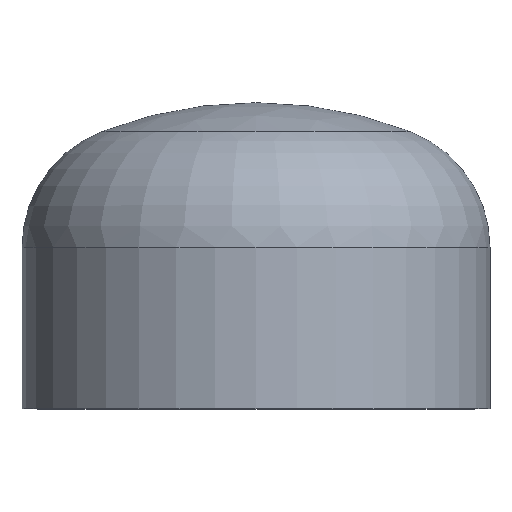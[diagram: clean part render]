
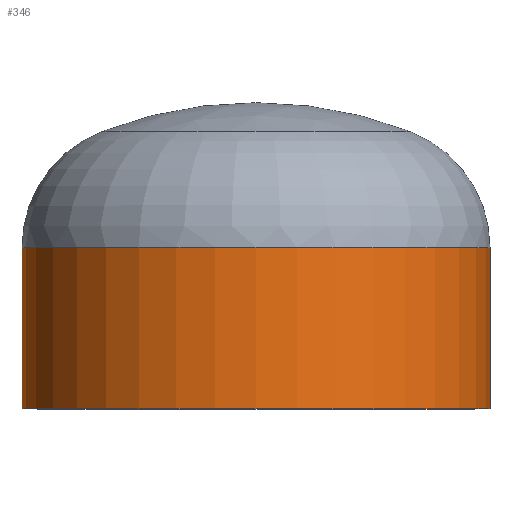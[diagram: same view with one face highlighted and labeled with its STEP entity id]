
A CAD part, top view. The second image highlights one B-rep face of the part: STEP entity #346.
In plain terms, the highlighted cylindrical face has radius 203.2 mm (diameter 406.4 mm), a partial arc.
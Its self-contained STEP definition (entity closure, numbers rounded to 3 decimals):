
#1 = CARTESIAN_POINT ( 'NONE',  ( -203.2, 140., 0. ) ) ;
#4 = AXIS2_PLACEMENT_3D ( 'NONE', #240, #309, #119 ) ;
#18 = AXIS2_PLACEMENT_3D ( 'NONE', #89, #239, #241 ) ;
#43 = CIRCLE ( 'NONE', #69, 203.2 ) ;
#45 = VERTEX_POINT ( 'NONE', #213 ) ;
#64 = CIRCLE ( 'NONE', #18, 203.2 ) ;
#69 = AXIS2_PLACEMENT_3D ( 'NONE', #297, #296, #295 ) ;
#78 = EDGE_CURVE ( 'NONE', #237, #45, #305, .T. ) ;
#89 = CARTESIAN_POINT ( 'NONE',  ( 0., 0., 0. ) ) ;
#91 = EDGE_CURVE ( 'NONE', #237, #405, #43, .T. ) ;
#119 = DIRECTION ( 'NONE',  ( 1., 0., 0. ) ) ;
#148 = ORIENTED_EDGE ( 'NONE', *, *, #78, .F. ) ;
#154 = CARTESIAN_POINT ( 'NONE',  ( -203.2, 0., 0. ) ) ;
#161 = ORIENTED_EDGE ( 'NONE', *, *, #281, .T. ) ;
#168 = VERTEX_POINT ( 'NONE', #154 ) ;
#175 = DIRECTION ( 'NONE',  ( 0., -1., 0. ) ) ;
#177 = VECTOR ( 'NONE', #175, 1000. ) ;
#189 = LINE ( 'NONE', #220, #177 ) ;
#201 = CARTESIAN_POINT ( 'NONE',  ( 203.2, 0., 0. ) ) ;
#213 = CARTESIAN_POINT ( 'NONE',  ( 203.2, 0., 0. ) ) ;
#220 = CARTESIAN_POINT ( 'NONE',  ( -203.2, 0., 0. ) ) ;
#221 = CYLINDRICAL_SURFACE ( 'NONE', #4, 203.2 ) ;
#228 = FACE_OUTER_BOUND ( 'NONE', #287, .T. ) ;
#231 = ORIENTED_EDGE ( 'NONE', *, *, #337, .F. ) ;
#237 = VERTEX_POINT ( 'NONE', #364 ) ;
#239 = DIRECTION ( 'NONE',  ( 0., -1., 0. ) ) ;
#240 = CARTESIAN_POINT ( 'NONE',  ( 0., 0., 0. ) ) ;
#241 = DIRECTION ( 'NONE',  ( 1., 0., 0. ) ) ;
#281 = EDGE_CURVE ( 'NONE', #405, #168, #189, .T. ) ;
#287 = EDGE_LOOP ( 'NONE', ( #339, #161, #231, #148 ) ) ;
#295 = DIRECTION ( 'NONE',  ( 1., 0., 0. ) ) ;
#296 = DIRECTION ( 'NONE',  ( 0., -1., 0. ) ) ;
#297 = CARTESIAN_POINT ( 'NONE',  ( 0., 140., 0. ) ) ;
#305 = LINE ( 'NONE', #201, #372 ) ;
#309 = DIRECTION ( 'NONE',  ( 0., -1., 0. ) ) ;
#337 = EDGE_CURVE ( 'NONE', #45, #168, #64, .T. ) ;
#339 = ORIENTED_EDGE ( 'NONE', *, *, #91, .T. ) ;
#340 = DIRECTION ( 'NONE',  ( 0., -1., 0. ) ) ;
#346 = ADVANCED_FACE ( 'NONE', ( #228 ), #221, .T. ) ;
#364 = CARTESIAN_POINT ( 'NONE',  ( 203.2, 140., 0. ) ) ;
#372 = VECTOR ( 'NONE', #340, 1000. ) ;
#405 = VERTEX_POINT ( 'NONE', #1 ) ;
